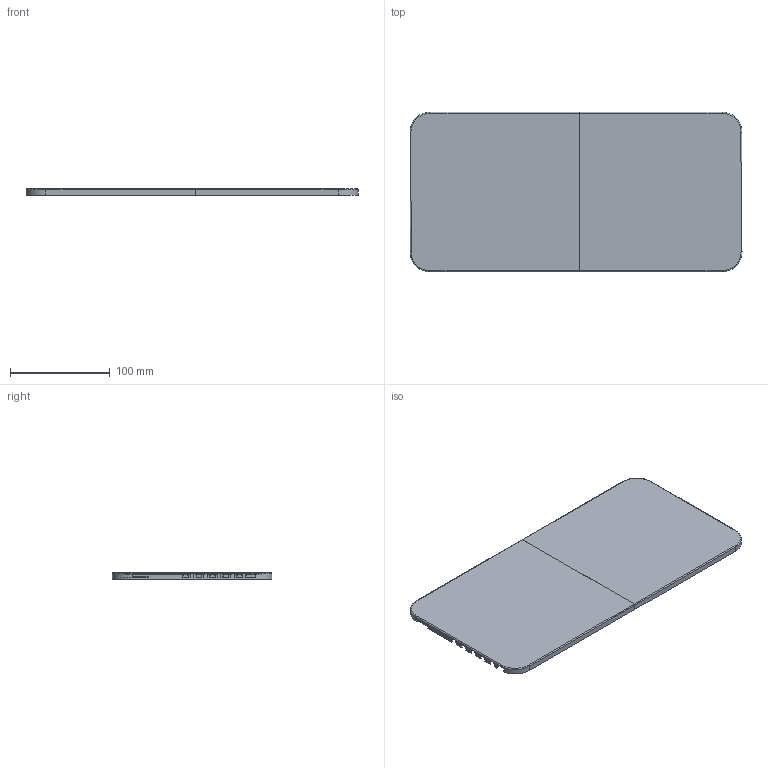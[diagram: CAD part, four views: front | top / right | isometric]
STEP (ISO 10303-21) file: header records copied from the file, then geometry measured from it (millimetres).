
FILE_DESCRIPTION (( 'STEP AP203' ), '1' );
FILE_NAME ('Matrix_V1_Cover.STEP', '2023-06-28T18:31:55', ( '' ), ( '' ), 'SwSTEP 2.0', 'SolidWorks 2016', '' );
FILE_SCHEMA (( 'CONFIG_CONTROL_DESIGN' ));
Length unit declared in the file: millimetre
Products named in the file (1): Matrix_V1_Cover
Bounding box: 333.01 x 160.1 x 6.2 mm (x, y, z)
Volume: 76779.3 mm3; surface area: 129546.3 mm2
Topology: 2 solids, 2 shells, 150 faces, 430 edges, 284 vertices
Faces by surface type: plane 103, cylinder 43, torus 4
Entity records: 4961 total; most frequent: CARTESIAN_POINT 970, ORIENTED_EDGE 860, DIRECTION 774, EDGE_CURVE 430, LINE 334, VECTOR 334, VERTEX_POINT 284, AXIS2_PLACEMENT_3D 220
